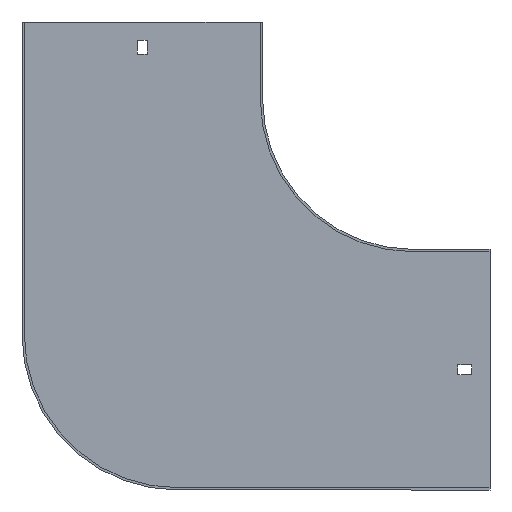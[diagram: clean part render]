
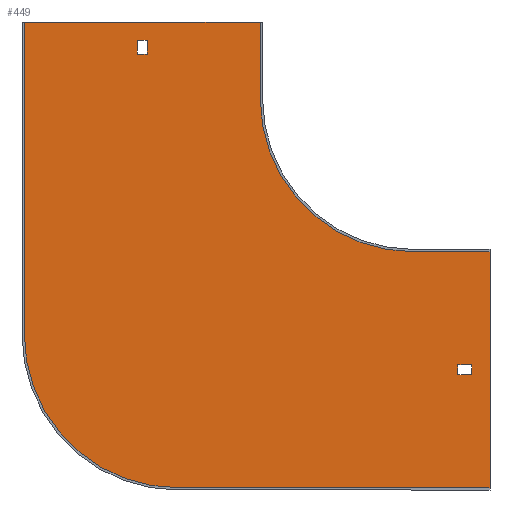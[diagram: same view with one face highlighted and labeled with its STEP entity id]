
A CAD part, front view. The second image highlights one B-rep face of the part: STEP entity #449.
In plain terms, the highlighted planar face has unit normal (0, -1, 0).
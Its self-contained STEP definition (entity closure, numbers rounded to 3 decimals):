
#5 = LINE ( 'NONE', #746, #309 ) ;
#19 = ORIENTED_EDGE ( 'NONE', *, *, #607, .F. ) ;
#21 = ORIENTED_EDGE ( 'NONE', *, *, #444, .T. ) ;
#27 = LINE ( 'NONE', #625, #269 ) ;
#34 = LINE ( 'NONE', #762, #381 ) ;
#44 = DIRECTION ( 'NONE',  ( 0., 0., -1. ) ) ;
#45 = CARTESIAN_POINT ( 'NONE',  ( -100., -1.5, 50. ) ) ;
#56 = LINE ( 'NONE', #698, #365 ) ;
#57 = FACE_BOUND ( 'NONE', #221, .T. ) ;
#67 = DIRECTION ( 'NONE',  ( -1., 0., 0. ) ) ;
#71 = VERTEX_POINT ( 'NONE', #637 ) ;
#79 = DIRECTION ( 'NONE',  ( 1., 0., 0. ) ) ;
#91 = EDGE_CURVE ( 'NONE', #737, #751, #641, .T. ) ;
#93 = CARTESIAN_POINT ( 'NONE',  ( 29., -1.5, -180.25 ) ) ;
#95 = VERTEX_POINT ( 'NONE', #532 ) ;
#98 = CARTESIAN_POINT ( 'NONE',  ( -254., -1.5, -154. ) ) ;
#107 = VERTEX_POINT ( 'NONE', #270 ) ;
#115 = DIRECTION ( 'NONE',  ( 0., 0., -1. ) ) ;
#116 = DIRECTION ( 'NONE',  ( 0., -1., 0. ) ) ;
#125 = CIRCLE ( 'NONE', #230, 100. ) ;
#135 = DIRECTION ( 'NONE',  ( 0., -1., 0. ) ) ;
#137 = VECTOR ( 'NONE', #437, 1000. ) ;
#139 = CARTESIAN_POINT ( 'NONE',  ( 38., -1.5, 0. ) ) ;
#147 = DIRECTION ( 'NONE',  ( 1., 0., 0. ) ) ;
#149 = AXIS2_PLACEMENT_3D ( 'NONE', #339, #809, #211 ) ;
#152 = VERTEX_POINT ( 'NONE', #590 ) ;
#162 = DIRECTION ( 'NONE',  ( 1., 0., 0. ) ) ;
#164 = DIRECTION ( 'NONE',  ( 0., 0., 1. ) ) ;
#167 = VECTOR ( 'NONE', #495, 1000. ) ;
#168 = VERTEX_POINT ( 'NONE', #300 ) ;
#189 = VECTOR ( 'NONE', #782, 1000. ) ;
#211 = DIRECTION ( 'NONE',  ( 0., 0., -1. ) ) ;
#213 = ORIENTED_EDGE ( 'NONE', *, *, #356, .F. ) ;
#216 = CIRCLE ( 'NONE', #149, 100. ) ;
#221 = EDGE_LOOP ( 'NONE', ( #415, #21, #623, #266 ) ) ;
#228 = CARTESIAN_POINT ( 'NONE',  ( -254., -1.5, -154. ) ) ;
#230 = AXIS2_PLACEMENT_3D ( 'NONE', #704, #116, #795 ) ;
#242 = LINE ( 'NONE', #589, #137 ) ;
#246 = CARTESIAN_POINT ( 'NONE',  ( -254., -1.5, 50. ) ) ;
#249 = CARTESIAN_POINT ( 'NONE',  ( -173.75, -1.5, 29. ) ) ;
#262 = CARTESIAN_POINT ( 'NONE',  ( -255.5, -1.5, 50. ) ) ;
#266 = ORIENTED_EDGE ( 'NONE', *, *, #693, .T. ) ;
#269 = VECTOR ( 'NONE', #164, 1000. ) ;
#270 = CARTESIAN_POINT ( 'NONE',  ( -154., -1.5, -254. ) ) ;
#300 = CARTESIAN_POINT ( 'NONE',  ( -180.25, -1.5, 29. ) ) ;
#307 = DIRECTION ( 'NONE',  ( 0., 0., -1. ) ) ;
#309 = VECTOR ( 'NONE', #79, 1000. ) ;
#313 = VERTEX_POINT ( 'NONE', #93 ) ;
#337 = ORIENTED_EDGE ( 'NONE', *, *, #418, .F. ) ;
#339 = CARTESIAN_POINT ( 'NONE',  ( -154., -1.5, -154. ) ) ;
#344 = LINE ( 'NONE', #476, #575 ) ;
#351 = EDGE_LOOP ( 'NONE', ( #662, #19, #337, #569 ) ) ;
#352 = DIRECTION ( 'NONE',  ( 0., 0., 1. ) ) ;
#356 = EDGE_CURVE ( 'NONE', #621, #434, #821, .T. ) ;
#365 = VECTOR ( 'NONE', #115, 1000. ) ;
#367 = EDGE_CURVE ( 'NONE', #859, #797, #34, .T. ) ;
#379 = LINE ( 'NONE', #858, #407 ) ;
#381 = VECTOR ( 'NONE', #162, 1000. ) ;
#384 = CARTESIAN_POINT ( 'NONE',  ( -173.75, -1.5, 38. ) ) ;
#385 = CARTESIAN_POINT ( 'NONE',  ( 38., -1.5, -173.75 ) ) ;
#395 = EDGE_CURVE ( 'NONE', #763, #168, #778, .T. ) ;
#407 = VECTOR ( 'NONE', #44, 1000. ) ;
#415 = ORIENTED_EDGE ( 'NONE', *, *, #367, .T. ) ;
#418 = EDGE_CURVE ( 'NONE', #313, #152, #242, .T. ) ;
#421 = EDGE_LOOP ( 'NONE', ( #831, #213, #730, #520, #586, #468, #702, #423 ) ) ;
#423 = ORIENTED_EDGE ( 'NONE', *, *, #91, .F. ) ;
#427 = EDGE_CURVE ( 'NONE', #751, #95, #125, .T. ) ;
#434 = VERTEX_POINT ( 'NONE', #246 ) ;
#437 = DIRECTION ( 'NONE',  ( 1., 0., 0. ) ) ;
#440 = CARTESIAN_POINT ( 'NONE',  ( -100., -1.5, 0. ) ) ;
#444 = EDGE_CURVE ( 'NONE', #797, #763, #379, .T. ) ;
#449 = ADVANCED_FACE ( 'NONE', ( #713, #658, #57 ), #791, .T. ) ;
#461 = DIRECTION ( 'NONE',  ( 0., 0., -1. ) ) ;
#463 = VECTOR ( 'NONE', #307, 1000. ) ;
#466 = CARTESIAN_POINT ( 'NONE',  ( -180.25, -1.5, 38. ) ) ;
#468 = ORIENTED_EDGE ( 'NONE', *, *, #577, .F. ) ;
#476 = CARTESIAN_POINT ( 'NONE',  ( 50., -1.5, -254. ) ) ;
#495 = DIRECTION ( 'NONE',  ( 0., 0., 1. ) ) ;
#496 = VERTEX_POINT ( 'NONE', #385 ) ;
#520 = ORIENTED_EDGE ( 'NONE', *, *, #587, .F. ) ;
#521 = CARTESIAN_POINT ( 'NONE',  ( 29., -1.5, -173.75 ) ) ;
#532 = CARTESIAN_POINT ( 'NONE',  ( 0., -1.5, -100. ) ) ;
#569 = ORIENTED_EDGE ( 'NONE', *, *, #760, .F. ) ;
#573 = DIRECTION ( 'NONE',  ( 0., 0., -1. ) ) ;
#574 = EDGE_CURVE ( 'NONE', #618, #71, #675, .T. ) ;
#575 = VECTOR ( 'NONE', #67, 1000. ) ;
#577 = EDGE_CURVE ( 'NONE', #95, #618, #5, .T. ) ;
#579 = EDGE_CURVE ( 'NONE', #107, #621, #216, .T. ) ;
#580 = CARTESIAN_POINT ( 'NONE',  ( -100., -1.5, 50. ) ) ;
#581 = DIRECTION ( 'NONE',  ( -1., 0., 0. ) ) ;
#584 = LINE ( 'NONE', #718, #189 ) ;
#586 = ORIENTED_EDGE ( 'NONE', *, *, #574, .F. ) ;
#587 = EDGE_CURVE ( 'NONE', #71, #107, #344, .T. ) ;
#589 = CARTESIAN_POINT ( 'NONE',  ( 0., -1.5, -180.25 ) ) ;
#590 = CARTESIAN_POINT ( 'NONE',  ( 38., -1.5, -180.25 ) ) ;
#602 = EDGE_CURVE ( 'NONE', #434, #737, #739, .T. ) ;
#607 = EDGE_CURVE ( 'NONE', #152, #496, #863, .T. ) ;
#618 = VERTEX_POINT ( 'NONE', #694 ) ;
#621 = VERTEX_POINT ( 'NONE', #98 ) ;
#623 = ORIENTED_EDGE ( 'NONE', *, *, #395, .T. ) ;
#625 = CARTESIAN_POINT ( 'NONE',  ( -180.25, -1.5, 0. ) ) ;
#637 = CARTESIAN_POINT ( 'NONE',  ( 50., -1.5, -254. ) ) ;
#641 = LINE ( 'NONE', #45, #463 ) ;
#654 = CARTESIAN_POINT ( 'NONE',  ( 0., -1.5, 0. ) ) ;
#658 = FACE_OUTER_BOUND ( 'NONE', #421, .T. ) ;
#659 = VECTOR ( 'NONE', #581, 1000. ) ;
#662 = ORIENTED_EDGE ( 'NONE', *, *, #740, .F. ) ;
#673 = AXIS2_PLACEMENT_3D ( 'NONE', #654, #135, #573 ) ;
#675 = LINE ( 'NONE', #805, #792 ) ;
#693 = EDGE_CURVE ( 'NONE', #168, #859, #27, .T. ) ;
#694 = CARTESIAN_POINT ( 'NONE',  ( 50., -1.5, -100. ) ) ;
#698 = CARTESIAN_POINT ( 'NONE',  ( 29., -1.5, 0. ) ) ;
#702 = ORIENTED_EDGE ( 'NONE', *, *, #427, .F. ) ;
#704 = CARTESIAN_POINT ( 'NONE',  ( 0., -1.5, 0. ) ) ;
#713 = FACE_BOUND ( 'NONE', #351, .T. ) ;
#718 = CARTESIAN_POINT ( 'NONE',  ( 0., -1.5, -173.75 ) ) ;
#723 = CARTESIAN_POINT ( 'NONE',  ( 0., -1.5, 29. ) ) ;
#730 = ORIENTED_EDGE ( 'NONE', *, *, #579, .F. ) ;
#737 = VERTEX_POINT ( 'NONE', #580 ) ;
#739 = LINE ( 'NONE', #262, #817 ) ;
#740 = EDGE_CURVE ( 'NONE', #496, #764, #584, .T. ) ;
#746 = CARTESIAN_POINT ( 'NONE',  ( 0., -1.5, -100. ) ) ;
#751 = VERTEX_POINT ( 'NONE', #440 ) ;
#760 = EDGE_CURVE ( 'NONE', #764, #313, #56, .T. ) ;
#762 = CARTESIAN_POINT ( 'NONE',  ( 0., -1.5, 38. ) ) ;
#763 = VERTEX_POINT ( 'NONE', #249 ) ;
#764 = VERTEX_POINT ( 'NONE', #521 ) ;
#778 = LINE ( 'NONE', #723, #659 ) ;
#782 = DIRECTION ( 'NONE',  ( -1., 0., 0. ) ) ;
#791 = PLANE ( 'NONE',  #673 ) ;
#792 = VECTOR ( 'NONE', #461, 1000. ) ;
#795 = DIRECTION ( 'NONE',  ( 0., 0., -1. ) ) ;
#797 = VERTEX_POINT ( 'NONE', #384 ) ;
#803 = VECTOR ( 'NONE', #352, 1000. ) ;
#805 = CARTESIAN_POINT ( 'NONE',  ( 50., -1.5, -98.5 ) ) ;
#809 = DIRECTION ( 'NONE',  ( 0., 1., 0. ) ) ;
#817 = VECTOR ( 'NONE', #147, 1000. ) ;
#821 = LINE ( 'NONE', #228, #167 ) ;
#831 = ORIENTED_EDGE ( 'NONE', *, *, #602, .F. ) ;
#858 = CARTESIAN_POINT ( 'NONE',  ( -173.75, -1.5, 0. ) ) ;
#859 = VERTEX_POINT ( 'NONE', #466 ) ;
#863 = LINE ( 'NONE', #139, #803 ) ;
